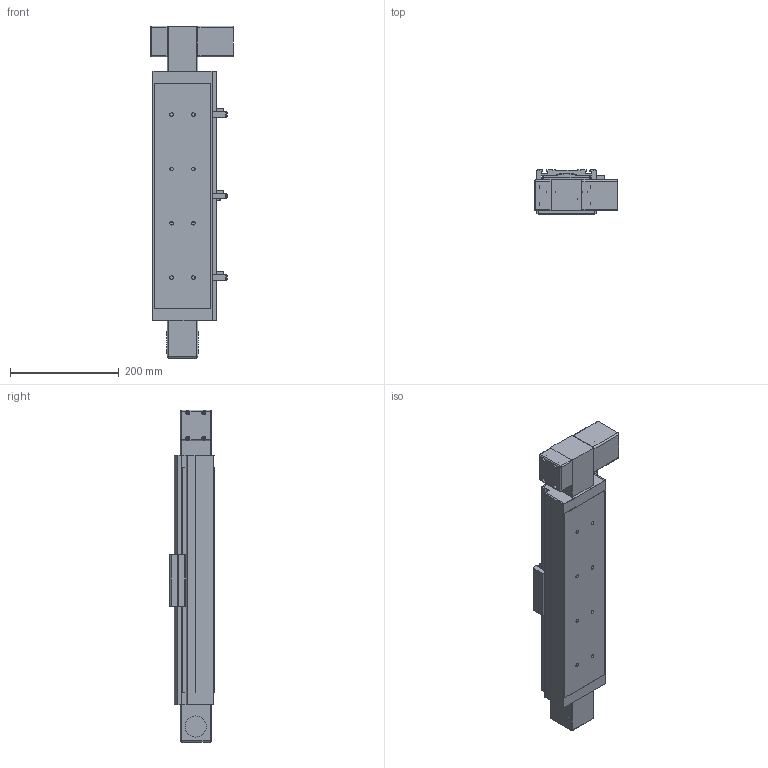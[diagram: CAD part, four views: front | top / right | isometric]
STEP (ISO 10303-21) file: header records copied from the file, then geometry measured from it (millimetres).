
FILE_DESCRIPTION((''),'2;1');
FILE_NAME('E:\uia actuator\UIA actuator 3d- 2015\Belt drive actuator\UIA110BR12(15)DC\UIA110BR12(15)DC-STEP FILE\UIA110BR12(15) stp file 13May16\UIA110BR12(15)DC-300-M23-P13-C10-S.stp','2016-05-13T14:51:00',('h029'),(''),'Autodesk Inventor 11','Autodesk Inventor 11','');
FILE_SCHEMA(('AUTOMOTIVE_DESIGN { 1 0 10303 214 1 1 1 1 }'));
Length unit declared in the file: millimetre
Products named in the file (11): UIA110BR12(15)DC-300; UIA110BR12(15)DC-300-body; UIA110BR12(15)DC-300-Sensor rail; UIA110B-Carriage; UIA110B- Sensor Flag; UIA110B-Cover; SOH-32C; SOH-32C-3; SOH-32C-1; SOH-32C-2; Motor mount
Assembly tree (10 placements, depth 3):
  UIA110BR12(15)DC-300
    UIA110BR12(15)DC-300-body
    UIA110BR12(15)DC-300-Sensor rail
    UIA110B-Carriage
    UIA110B- Sensor Flag
    UIA110B-Cover
    SOH-32C
      SOH-32C-3
      SOH-32C-1
      SOH-32C-2
    Motor mount
Bounding box: 152 x 81 x 611 mm (x, y, z)
Volume: 2225703.1 mm3; surface area: 560457.5 mm2
Topology: 9 solids, 13 shells, 708 faces, 1978 edges, 1276 vertices
Faces by surface type: plane 447, cylinder 171, cone 42, bspline 40, sphere 8
Full cylindrical faces by diameter (mm): 2.459 x4, 3 x2, 3.242 x8, 3.5 x4, 4 x10, 4.5 x4, 4.917 x8, 5 x2, 6.35 x1, 6.5 x8, 7.5 x4, 10 x3, 11 x8, 12 x1, 20 x2, 32 x3, 37 x1, 38.1 x1, 39 x2, 43.5 x1, 46 x2
Entity records: 23098 total; most frequent: CARTESIAN_POINT 5449, DIRECTION 3603, ORIENTED_EDGE 3462, EDGE_CURVE 1731, AXIS2_PLACEMENT_3D 1216, VERTEX_POINT 1192, VECTOR 1171, LINE 1171
